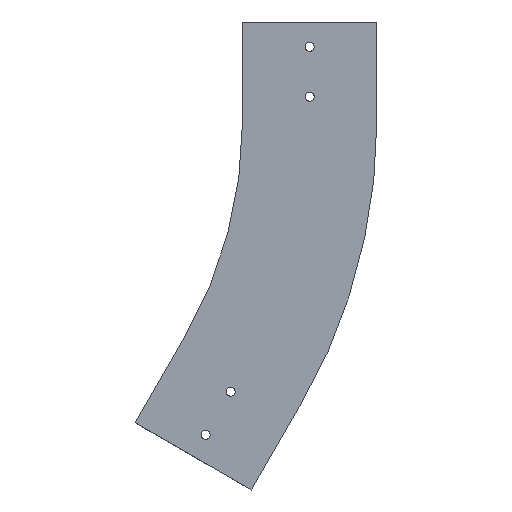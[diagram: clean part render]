
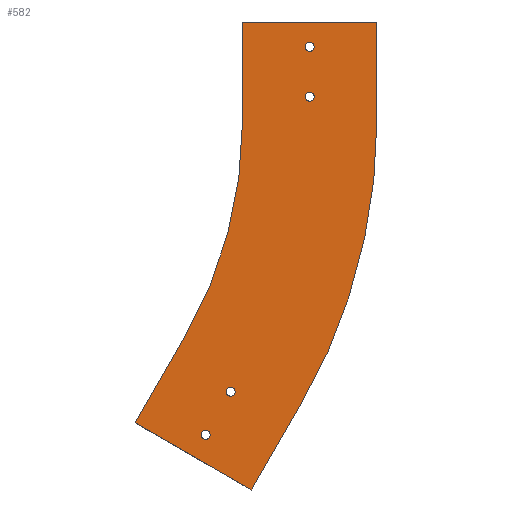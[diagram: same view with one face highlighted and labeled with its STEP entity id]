
A CAD part, left-side view. The second image highlights one B-rep face of the part: STEP entity #582.
In plain terms, the highlighted planar face has unit normal (-1, 0, 0).
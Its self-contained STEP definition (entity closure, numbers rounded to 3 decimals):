
#8 = EDGE_LOOP ( 'NONE', ( #199, #200 ) ) ;
#9 = EDGE_LOOP ( 'NONE', ( #201, #202 ) ) ;
#10 = EDGE_LOOP ( 'NONE', ( #203, #204 ) ) ;
#11 = EDGE_LOOP ( 'NONE', ( #205, #206 ) ) ;
#12 = EDGE_LOOP ( 'NONE', ( #207, #208, #209, #210, #211, #212, #213, #214 ) ) ;
#199 = ORIENTED_EDGE ( 'NONE', *, *, #1891, .F. ) ;
#200 = ORIENTED_EDGE ( 'NONE', *, *, #1612, .F. ) ;
#201 = ORIENTED_EDGE ( 'NONE', *, *, #1931, .F. ) ;
#202 = ORIENTED_EDGE ( 'NONE', *, *, #1743, .F. ) ;
#203 = ORIENTED_EDGE ( 'NONE', *, *, #1936, .F. ) ;
#204 = ORIENTED_EDGE ( 'NONE', *, *, #1690, .F. ) ;
#205 = ORIENTED_EDGE ( 'NONE', *, *, #1872, .F. ) ;
#206 = ORIENTED_EDGE ( 'NONE', *, *, #1753, .F. ) ;
#207 = ORIENTED_EDGE ( 'NONE', *, *, #1909, .F. ) ;
#208 = ORIENTED_EDGE ( 'NONE', *, *, #1939, .F. ) ;
#209 = ORIENTED_EDGE ( 'NONE', *, *, #1624, .T. ) ;
#210 = ORIENTED_EDGE ( 'NONE', *, *, #1679, .T. ) ;
#211 = ORIENTED_EDGE ( 'NONE', *, *, #1770, .T. ) ;
#212 = ORIENTED_EDGE ( 'NONE', *, *, #1620, .F. ) ;
#213 = ORIENTED_EDGE ( 'NONE', *, *, #1640, .F. ) ;
#214 = ORIENTED_EDGE ( 'NONE', *, *, #1711, .T. ) ;
#582 = ADVANCED_FACE ( 'NONE', ( #868, #984, #992, #1029, #1113 ), #2281, .T. ) ;
#658 = VECTOR ( 'NONE', #1426, 1000. ) ;
#659 = LINE ( 'NONE', #1526, #658 ) ;
#663 = CIRCLE ( 'NONE', #1763, 4.5 ) ;
#666 = CIRCLE ( 'NONE', #1764, 4.5 ) ;
#679 = VECTOR ( 'NONE', #1372, 1000. ) ;
#680 = LINE ( 'NONE', #1373, #679 ) ;
#690 = CIRCLE ( 'NONE', #1771, 4.5 ) ;
#699 = CIRCLE ( 'NONE', #1772, 4.5 ) ;
#818 = VECTOR ( 'NONE', #2568, 1000. ) ;
#819 = LINE ( 'NONE', #2569, #818 ) ;
#844 = CIRCLE ( 'NONE', #1818, 4.5 ) ;
#859 = CIRCLE ( 'NONE', #1819, 4.5 ) ;
#868 = FACE_BOUND ( 'NONE', #8, .T. ) ;
#908 = VECTOR ( 'NONE', #2499, 1000. ) ;
#909 = LINE ( 'NONE', #2556, #908 ) ;
#943 = CIRCLE ( 'NONE', #1836, 4.5 ) ;
#965 = VECTOR ( 'NONE', #2442, 1000. ) ;
#966 = LINE ( 'NONE', #2445, #965 ) ;
#984 = FACE_BOUND ( 'NONE', #9, .T. ) ;
#992 = FACE_BOUND ( 'NONE', #10, .T. ) ;
#1029 = FACE_BOUND ( 'NONE', #11, .T. ) ;
#1043 = CIRCLE ( 'NONE', #1849, 567.5 ) ;
#1075 = CIRCLE ( 'NONE', #1854, 432.5 ) ;
#1083 = VECTOR ( 'NONE', #2041, 1000. ) ;
#1084 = LINE ( 'NONE', #2040, #1083 ) ;
#1096 = CIRCLE ( 'NONE', #1859, 4.5 ) ;
#1113 = FACE_OUTER_BOUND ( 'NONE', #12, .T. ) ;
#1258 = CARTESIAN_POINT ( 'NONE',  ( -43., 79.487, -376.151 ) ) ;
#1261 = DIRECTION ( 'NONE',  ( -1., 0., 0. ) ) ;
#1266 = DIRECTION ( 'NONE',  ( -1., 0., 0. ) ) ;
#1291 = CARTESIAN_POINT ( 'NONE',  ( -43., 58.531, -470.353 ) ) ;
#1294 = CARTESIAN_POINT ( 'NONE',  ( -43., 175.444, -402.853 ) ) ;
#1310 = CARTESIAN_POINT ( 'NONE',  ( -43., 8.531, -383.75 ) ) ;
#1319 = DIRECTION ( 'NONE',  ( -1., 0., 0. ) ) ;
#1326 = CARTESIAN_POINT ( 'NONE',  ( -43., 0., -79.5 ) ) ;
#1334 = CARTESIAN_POINT ( 'NONE',  ( -43., 0., -20.5 ) ) ;
#1342 = CARTESIAN_POINT ( 'NONE',  ( -43., 0., -75. ) ) ;
#1345 = CARTESIAN_POINT ( 'NONE',  ( -43., 0., -70.5 ) ) ;
#1355 = CARTESIAN_POINT ( 'NONE',  ( -43., 104.487, -419.452 ) ) ;
#1356 = CARTESIAN_POINT ( 'NONE',  ( -43., 104.487, -410.452 ) ) ;
#1357 = CARTESIAN_POINT ( 'NONE',  ( -43., 125.444, -316.25 ) ) ;
#1372 = DIRECTION ( 'NONE',  ( 0., -1., 0. ) ) ;
#1373 = CARTESIAN_POINT ( 'NONE',  ( -43., -67.5, 0. ) ) ;
#1377 = CARTESIAN_POINT ( 'NONE',  ( -43., -67.5, -100. ) ) ;
#1398 = CARTESIAN_POINT ( 'NONE',  ( -43., 67.5, -100. ) ) ;
#1412 = CARTESIAN_POINT ( 'NONE',  ( -43., 0., -29.5 ) ) ;
#1426 = DIRECTION ( 'NONE',  ( 0., 0., 1. ) ) ;
#1431 = CARTESIAN_POINT ( 'NONE',  ( -43., 104.487, -414.952 ) ) ;
#1441 = DIRECTION ( 'NONE',  ( 0., 0., 1. ) ) ;
#1443 = DIRECTION ( 'NONE',  ( -1., 0., 0. ) ) ;
#1455 = DIRECTION ( 'NONE',  ( 0., 0., 1. ) ) ;
#1468 = CARTESIAN_POINT ( 'NONE',  ( -43., 79.487, -367.151 ) ) ;
#1485 = CARTESIAN_POINT ( 'NONE',  ( -43., 67.5, 0. ) ) ;
#1491 = DIRECTION ( 'NONE',  ( 0., 0., 1. ) ) ;
#1504 = CARTESIAN_POINT ( 'NONE',  ( -43., -67.5, 0. ) ) ;
#1523 = CARTESIAN_POINT ( 'NONE',  ( -43., 79.487, -371.651 ) ) ;
#1526 = CARTESIAN_POINT ( 'NONE',  ( -43., 67.5, -100. ) ) ;
#1543 = DIRECTION ( 'NONE',  ( 0., 0., 1. ) ) ;
#1544 = CARTESIAN_POINT ( 'NONE',  ( -43., 0., -25. ) ) ;
#1558 = AXIS2_PLACEMENT_3D ( 'NONE', #2282, #2283, #2284 ) ;
#1612 = EDGE_CURVE ( 'NONE', #2363, #2359, #1096, .T. ) ;
#1620 = EDGE_CURVE ( 'NONE', #2384, #2394, #1084, .T. ) ;
#1624 = EDGE_CURVE ( 'NONE', #2146, #2348, #1075, .T. ) ;
#1640 = EDGE_CURVE ( 'NONE', #2128, #2384, #1043, .T. ) ;
#1679 = EDGE_CURVE ( 'NONE', #2348, #2391, #966, .T. ) ;
#1690 = EDGE_CURVE ( 'NONE', #2188, #2184, #943, .T. ) ;
#1711 = EDGE_CURVE ( 'NONE', #2128, #2168, #909, .T. ) ;
#1743 = EDGE_CURVE ( 'NONE', #2356, #2349, #859, .T. ) ;
#1753 = EDGE_CURVE ( 'NONE', #2319, #2383, #844, .T. ) ;
#1763 = AXIS2_PLACEMENT_3D ( 'NONE', #1523, #1443, #1441 ) ;
#1764 = AXIS2_PLACEMENT_3D ( 'NONE', #1431, #1261, #1455 ) ;
#1770 = EDGE_CURVE ( 'NONE', #2391, #2394, #819, .T. ) ;
#1771 = AXIS2_PLACEMENT_3D ( 'NONE', #1342, #1319, #1491 ) ;
#1772 = AXIS2_PLACEMENT_3D ( 'NONE', #1544, #1266, #1543 ) ;
#1818 = AXIS2_PLACEMENT_3D ( 'NONE', #2502, #2523, #2522 ) ;
#1819 = AXIS2_PLACEMENT_3D ( 'NONE', #2515, #2514, #2513 ) ;
#1836 = AXIS2_PLACEMENT_3D ( 'NONE', #2427, #2426, #2424 ) ;
#1849 = AXIS2_PLACEMENT_3D ( 'NONE', #2740, #2760, #2761 ) ;
#1854 = AXIS2_PLACEMENT_3D ( 'NONE', #2687, #2686, #2688 ) ;
#1859 = AXIS2_PLACEMENT_3D ( 'NONE', #2060, #2058, #2059 ) ;
#1872 = EDGE_CURVE ( 'NONE', #2383, #2319, #699, .T. ) ;
#1891 = EDGE_CURVE ( 'NONE', #2359, #2363, #690, .T. ) ;
#1909 = EDGE_CURVE ( 'NONE', #2171, #2168, #680, .T. ) ;
#1931 = EDGE_CURVE ( 'NONE', #2349, #2356, #666, .T. ) ;
#1936 = EDGE_CURVE ( 'NONE', #2184, #2188, #663, .T. ) ;
#1939 = EDGE_CURVE ( 'NONE', #2146, #2171, #659, .T. ) ;
#2040 = CARTESIAN_POINT ( 'NONE',  ( -43., 8.531, -383.75 ) ) ;
#2041 = DIRECTION ( 'NONE',  ( 0., 0.5, -0.866 ) ) ;
#2058 = DIRECTION ( 'NONE',  ( -1., 0., 0. ) ) ;
#2059 = DIRECTION ( 'NONE',  ( 0., 0., 1. ) ) ;
#2060 = CARTESIAN_POINT ( 'NONE',  ( -43., 0., -75. ) ) ;
#2128 = VERTEX_POINT ( 'NONE', #1377 ) ;
#2146 = VERTEX_POINT ( 'NONE', #1398 ) ;
#2168 = VERTEX_POINT ( 'NONE', #1504 ) ;
#2171 = VERTEX_POINT ( 'NONE', #1485 ) ;
#2184 = VERTEX_POINT ( 'NONE', #1468 ) ;
#2188 = VERTEX_POINT ( 'NONE', #1258 ) ;
#2281 = PLANE ( 'NONE',  #1558 ) ;
#2282 = CARTESIAN_POINT ( 'NONE',  ( -43., -67.5, -100. ) ) ;
#2283 = DIRECTION ( 'NONE',  ( -1., 0., 0. ) ) ;
#2284 = DIRECTION ( 'NONE',  ( 0., 0., 1. ) ) ;
#2319 = VERTEX_POINT ( 'NONE', #1412 ) ;
#2348 = VERTEX_POINT ( 'NONE', #1357 ) ;
#2349 = VERTEX_POINT ( 'NONE', #1356 ) ;
#2356 = VERTEX_POINT ( 'NONE', #1355 ) ;
#2359 = VERTEX_POINT ( 'NONE', #1345 ) ;
#2363 = VERTEX_POINT ( 'NONE', #1326 ) ;
#2383 = VERTEX_POINT ( 'NONE', #1334 ) ;
#2384 = VERTEX_POINT ( 'NONE', #1310 ) ;
#2391 = VERTEX_POINT ( 'NONE', #1294 ) ;
#2394 = VERTEX_POINT ( 'NONE', #1291 ) ;
#2424 = DIRECTION ( 'NONE',  ( 0., 0., 1. ) ) ;
#2426 = DIRECTION ( 'NONE',  ( -1., 0., 0. ) ) ;
#2427 = CARTESIAN_POINT ( 'NONE',  ( -43., 79.487, -371.651 ) ) ;
#2442 = DIRECTION ( 'NONE',  ( 0., 0.5, -0.866 ) ) ;
#2445 = CARTESIAN_POINT ( 'NONE',  ( -43., 125.444, -316.25 ) ) ;
#2499 = DIRECTION ( 'NONE',  ( 0., 0., 1. ) ) ;
#2502 = CARTESIAN_POINT ( 'NONE',  ( -43., 0., -25. ) ) ;
#2513 = DIRECTION ( 'NONE',  ( 0., 0., 1. ) ) ;
#2514 = DIRECTION ( 'NONE',  ( -1., 0., 0. ) ) ;
#2515 = CARTESIAN_POINT ( 'NONE',  ( -43., 104.487, -414.952 ) ) ;
#2522 = DIRECTION ( 'NONE',  ( 0., 0., 1. ) ) ;
#2523 = DIRECTION ( 'NONE',  ( -1., 0., 0. ) ) ;
#2556 = CARTESIAN_POINT ( 'NONE',  ( -43., -67.5, -100. ) ) ;
#2568 = DIRECTION ( 'NONE',  ( 0., -0.866, -0.5 ) ) ;
#2569 = CARTESIAN_POINT ( 'NONE',  ( -43., 58.531, -470.353 ) ) ;
#2686 = DIRECTION ( 'NONE',  ( 1., 0., 0. ) ) ;
#2687 = CARTESIAN_POINT ( 'NONE',  ( -43., 500., -100. ) ) ;
#2688 = DIRECTION ( 'NONE',  ( 0., 0., -1. ) ) ;
#2740 = CARTESIAN_POINT ( 'NONE',  ( -43., 500., -100. ) ) ;
#2760 = DIRECTION ( 'NONE',  ( 1., 0., 0. ) ) ;
#2761 = DIRECTION ( 'NONE',  ( 0., 0., -1. ) ) ;
